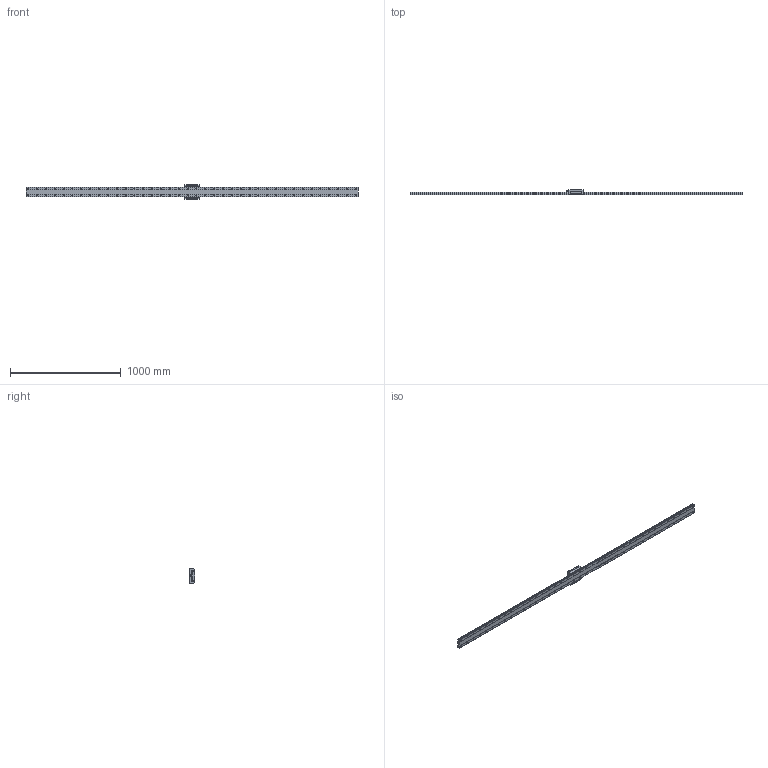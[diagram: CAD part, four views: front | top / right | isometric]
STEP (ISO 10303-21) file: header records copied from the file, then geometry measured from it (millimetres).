
FILE_DESCRIPTION(/* description */ ('STEP AP214'),/* implementation_level */ '2;1');
FILE_NAME(/* name */ 'HRW50CR1SS-3000L_G20_0_B-PT18_1429-75_0_0_0_1',/* time_stamp */ '2023-09-26T15:14:17+02:00',/* author */ ('License CC BY-ND 4.0'),/* organization */ ('CADENAS'),/* preprocessor_version */ 'ST-DEVELOPER v19.3',/* originating_system */ 'PARTsolutions',/* authorisation */ ' ');
FILE_SCHEMA (('AUTOMOTIVE_DESIGN {1 0 10303 214 3 1 1}'));
Length unit declared in the file: millimetre
Products named in the file (4): HRW50CR1SS-3000L_G20_0_B-PT18_1429-75_0_0_0_1; HRW-B-PT1/8_grease_nipple_joint; HRW50CRSSB-PT1/81 Slide17-60; HRW50CR300020 Track
Assembly tree (3 placements, depth 2):
  HRW50CR1SS-3000L_G20_0_B-PT18_1429-75_0_0_0_1
    HRW-B-PT1/8_grease_nipple_joint
    HRW50CRSSB-PT1/81 Slide17-60
    HRW50CR300020 Track
Bounding box: 3000 x 50 x 130 mm (x, y, z)
Volume: 6245971.1 mm3; surface area: 837396.8 mm2
Topology: 3 solids, 3 shells, 439 faces, 1022 edges, 673 vertices
Faces by surface type: plane 233, cylinder 171, cone 24, torus 9, sphere 2
Full cylindrical faces by diameter (mm): 8.376 x6, 9 x76, 9.6 x1, 10 x2, 14 x76
Entity records: 11990 total; most frequent: DIRECTION 2052, CARTESIAN_POINT 2050, ORIENTED_EDGE 1626, FACE_BOUND 881, EDGE_LOOP 875, AXIS2_PLACEMENT_3D 823, EDGE_CURVE 813, VERTEX_POINT 666
